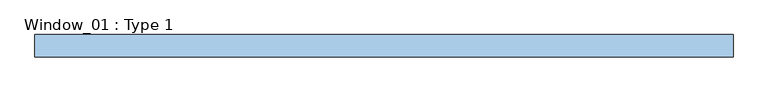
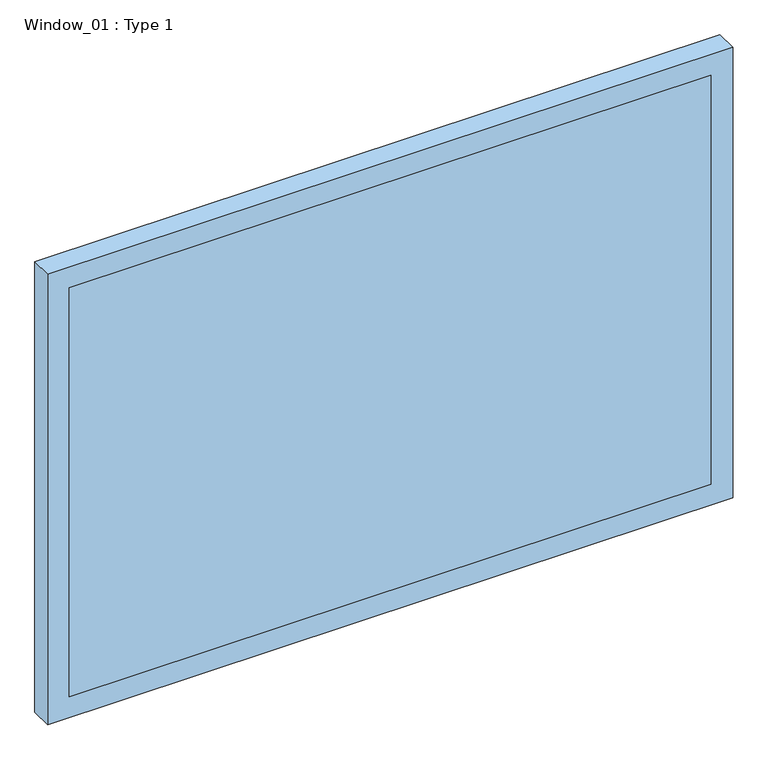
"""IFC4 building model written with IfcOpenShell, lengths in millimetres: window geometry, Window_01 : Type 1."""

import ifcopenshell
import ifcopenshell.guid

model = None  # the IFC model being written
_history = None  # IfcOwnerHistory: only IFC2X3 demands one
_inside = {}  # id of a spatial element -> (the spatial element, [elements in it])
_under = {}  # id of a project, library or spatial element -> (it, [spatial elements below it])
_declared = {}  # id of a project -> (the project, [libraries it declares])
_typed = {}  # id of a type object -> (the type object, [elements of that type])
_made_of = {}  # id of a material, layer set ... -> (it, [elements and type objects made of it])


def new_model(schema):
    """Start an empty IFC model of exactly this schema.

    Asked for "IFC4X3", IfcOpenShell would pick the latest addendum, in which some entities
    have other attributes; the version numbers below select the first issue.
    IFC2X3 requires an IfcOwnerHistory on every rooted entity: one is made here for all.
    """
    global model, _history
    if schema == "IFC4X3":
        model = ifcopenshell.file(schema_version=(4, 3, 0, 0))
    else:
        model = ifcopenshell.file(schema=schema)
    _inside.clear()
    _under.clear()
    _declared.clear()
    _typed.clear()
    _made_of.clear()
    _history = None
    if model.schema == "IFC2X3":
        org = make("IfcOrganization", Name="unknown")
        user = make(
            "IfcPersonAndOrganization",
            ThePerson=make("IfcPerson", FamilyName="unknown"),
            TheOrganization=org,
        )
        app = make(
            "IfcApplication",
            ApplicationDeveloper=org,
            Version="unknown",
            ApplicationFullName="unknown",
            ApplicationIdentifier="unknown",
        )
        _history = make(
            "IfcOwnerHistory",
            OwningUser=user,
            OwningApplication=app,
            ChangeAction="ADDED",
            CreationDate=0,
        )
    return model


def make(cls, **values):
    """One entity of the class cls with the attributes given. An attribute that is None is left unset."""
    return model.create_entity(
        cls, **{name: value for name, value in values.items() if value is not None}
    )


def rooted(cls, **values):
    """An entity with a GlobalId (a new one), such as an element, a storey or a relation."""
    return make(cls, GlobalId=ifcopenshell.guid.new(), OwnerHistory=_history, **values)


def si_unit(unit_type, name, prefix=None):
    """IfcSIUnit, for example si_unit("LENGTHUNIT", "METRE", prefix="MILLI")."""
    return make("IfcSIUnit", UnitType=unit_type, Prefix=prefix, Name=name)


def assignment(units):
    """IfcUnitAssignment: the units of a project."""
    return None if units is None else make("IfcUnitAssignment", Units=units)


def point(xyz):
    """IfcCartesianPoint."""
    return None if xyz is None else make("IfcCartesianPoint", Coordinates=xyz)


def direction(xyz):
    """IfcDirection."""
    return None if xyz is None else make("IfcDirection", DirectionRatios=xyz)


def frame(location, z_axis=None, x_axis=None):
    """IfcAxis2Placement3D, a coordinate frame: its origin and axes. An axis left out is left unset."""
    return make(
        "IfcAxis2Placement3D",
        Location=point(location),
        Axis=direction(z_axis),
        RefDirection=direction(x_axis),
    )


def origin():
    """The frame at (0, 0, 0) with its axes left unset."""
    return frame((0.0, 0.0, 0.0))


def place(relative_to, where):
    """IfcLocalPlacement: puts the frame where relative to a parent placement (None: the world)."""
    return make(
        "IfcLocalPlacement", PlacementRelTo=relative_to, RelativePlacement=where
    )


def context(
    kind, dimensions, precision=None, world=None, true_north=None, identifier=None
):
    """IfcGeometricRepresentationContext, for example the 3D "Model" context."""
    return make(
        "IfcGeometricRepresentationContext",
        ContextIdentifier=identifier,
        ContextType=kind,
        CoordinateSpaceDimension=dimensions,
        Precision=precision,
        WorldCoordinateSystem=world,
        TrueNorth=true_north,
    )


def project(units=None, contexts=None):
    """IfcProject with its units and contexts."""
    return rooted(
        "IfcProject",
        Name="project",
        RepresentationContexts=contexts,
        UnitsInContext=assignment(units),
    )


def spatial(cls, under=None, at=None, **own):
    """A site, building, storey or space (cls), placed at a placement, below another one or the project."""
    s = rooted(cls, ObjectPlacement=at, **own)
    if under is not None:
        _under.setdefault(under.id(), (under, []))[1].append(s)
    return s


def polyline(points):
    """IfcPolyline through the points."""
    return make("IfcPolyline", Points=[point(p) for p in points])


def outline(outer, holes=None, kind="AREA"):
    """IfcArbitraryClosedProfileDef: a profile drawn as a closed curve; with holes, ...WithVoids."""
    if holes is None:
        return make("IfcArbitraryClosedProfileDef", ProfileType=kind, OuterCurve=outer)
    return make(
        "IfcArbitraryProfileDefWithVoids",
        ProfileType=kind,
        OuterCurve=outer,
        InnerCurves=holes,
    )


def extrude(swept, where, along, depth):
    """IfcExtrudedAreaSolid: the profile swept, set in the frame where, extruded along a direction by depth."""
    return make(
        "IfcExtrudedAreaSolid",
        SweptArea=swept,
        Position=where,
        ExtrudedDirection=direction(along),
        Depth=depth,
    )


def shape(context_of_items, identifier, shape_type, items):
    """IfcShapeRepresentation: the items that make up one representation, for example the "Body"."""
    return make(
        "IfcShapeRepresentation",
        ContextOfItems=context_of_items,
        RepresentationIdentifier=identifier,
        RepresentationType=shape_type,
        Items=items,
    )


def source(mapping_origin, context_of_items, identifier, shape_type, items):
    """IfcRepresentationMap: a shape defined once, which mapped items show again and again."""
    return make(
        "IfcRepresentationMap",
        MappingOrigin=mapping_origin,
        MappedRepresentation=shape(context_of_items, identifier, shape_type, items),
    )


def transform(
    local_origin,
    x_axis=None,
    y_axis=None,
    z_axis=None,
    scale=None,
    scale2=None,
    scale3=None,
    uniform=True,
):
    """IfcCartesianTransformationOperator3D, or its non-uniform kind. x_axis, y_axis, z_axis: its Axis1, 2, 3."""
    if uniform:
        return make(
            "IfcCartesianTransformationOperator3D",
            Axis1=direction(x_axis),
            Axis2=direction(y_axis),
            LocalOrigin=point(local_origin),
            Scale=scale,
            Axis3=direction(z_axis),
        )
    return make(
        "IfcCartesianTransformationOperator3DnonUniform",
        Axis1=direction(x_axis),
        Axis2=direction(y_axis),
        LocalOrigin=point(local_origin),
        Scale=scale,
        Axis3=direction(z_axis),
        Scale2=scale2,
        Scale3=scale3,
    )


def mapped(mapping_source, mapping_target):
    """IfcMappedItem: shows the shape of a source again, moved by a transform."""
    return make(
        "IfcMappedItem", MappingSource=mapping_source, MappingTarget=mapping_target
    )


def made_of(thing, what):
    """Note that an element or type object is made of a material, layer set ...; save() writes the relation."""
    if what is not None:
        _made_of.setdefault(what.id(), (what, []))[1].append(thing)
    return thing


def element(
    cls,
    number,
    at=None,
    inside=None,
    cuts=None,
    type_object=None,
    material=None,
    context=None,
    identifier="Body",
    shape_type=None,
    held_by="IfcProductDefinitionShape",
    body=None,
    shapes=None,
    **own,
):
    """One element of the class cls, such as IfcWall. Its Tag is "e" and its number.

    at: its placement. inside: the storey or other place that contains it. cuts: it is an
    opening in that element (IfcRelVoidsElement). A single representation is given by context,
    identifier, shape_type and body (its items); several are given by shapes. held_by: the class
    of the entity that holds the representations. save() writes the other relations.
    """
    e = rooted(cls, Tag="e%d" % number, ObjectPlacement=at, **own)
    if body is not None:
        shapes = [shape(context, identifier, shape_type, body)]
    if shapes is not None:
        e.Representation = make(held_by, Representations=shapes)
    if inside is not None:
        _inside.setdefault(inside.id(), (inside, []))[1].append(e)
    if cuts is not None:
        rooted(
            "IfcRelVoidsElement", RelatingBuildingElement=cuts, RelatedOpeningElement=e
        )
    if type_object is not None:
        _typed.setdefault(type_object.id(), (type_object, []))[1].append(e)
    return made_of(e, material)


def aggregate(whole, parts):
    """IfcRelAggregates: a whole, such as a stair, and the parts it consists of."""
    return rooted("IfcRelAggregates", RelatingObject=whole, RelatedObjects=parts)


def save(model, path):
    """Write the relations noted so far, then the file.

    IfcRelAggregates (storeys below a building ...), IfcRelContainedInSpatialStructure (elements
    in a storey), IfcRelDefinesByType, IfcRelAssociatesMaterial and IfcRelDeclares: one each for
    every whole, place, type object, material and project.
    """
    for whole, parts in _under.values():
        aggregate(whole, parts)
    for where, things in _inside.values():
        rooted(
            "IfcRelContainedInSpatialStructure",
            RelatedElements=things,
            RelatingStructure=where,
        )
    for kind, things in _typed.values():
        rooted("IfcRelDefinesByType", RelatedObjects=things, RelatingType=kind)
    for what, things in _made_of.values():
        rooted("IfcRelAssociatesMaterial", RelatedObjects=things, RelatingMaterial=what)
    for by, libraries in _declared.values():
        rooted("IfcRelDeclares", RelatingContext=by, RelatedDefinitions=libraries)
    model.write(path)


def window_01_type_1_830a4720(model_context):
    return source(origin(), model_context, "Body", "SweptSolid", [
        extrude(outline(polyline([(735.0, -107.7988409), (735.0, -130.0), (-735.0, -130.0), (-735.0, -107.7988409), (735.0, -107.7988409)])), frame((0.0, 0.0, 964.4), z_axis=(0.0, 0.0, 1.0), x_axis=(1.0, 0.0, 0.0)), (0.0, 0.0, 1.0), 990.0),
        extrude(outline(polyline([(2004.4, 785.0), (2004.4, -785.0), (914.4, -785.0), (914.4, 785.0), (2004.4, 785.0)]), holes=[polyline([(1954.4, -735.0), (1954.4, 735.0), (964.4, 735.0), (964.4, -735.0), (1954.4, -735.0)])]), frame((0.0, -130.0, 0.0), z_axis=(0.0, 1.0, 0.0), x_axis=(0.0, 0.0, 1.0)), (0.0, 0.0, 1.0), 50.0),
    ])


if __name__ == "__main__":
    model = new_model("IFC4")
    model_context = context("Model", 3, world=origin())
    ifc_project = project(units=[si_unit("LENGTHUNIT", "METRE", prefix="MILLI")], contexts=[model_context])
    site = spatial("IfcSite", under=ifc_project)
    building = spatial("IfcBuilding", under=site)
    placement = place(None, origin())
    window_01_type_1_shape = window_01_type_1_830a4720(model_context)
    element("IfcWindow", 1, ObjectType="Window_01 : Type 1", at=placement, inside=building, context=model_context, shape_type="MappedRepresentation", body=[
        mapped(window_01_type_1_shape, transform((0.0, 0.0, 0.0), x_axis=(1.0, 0.0, 0.0), y_axis=(0.0, 1.0, 0.0), z_axis=(0.0, 0.0, 1.0))),
    ])
    save(model, "model.ifc")
